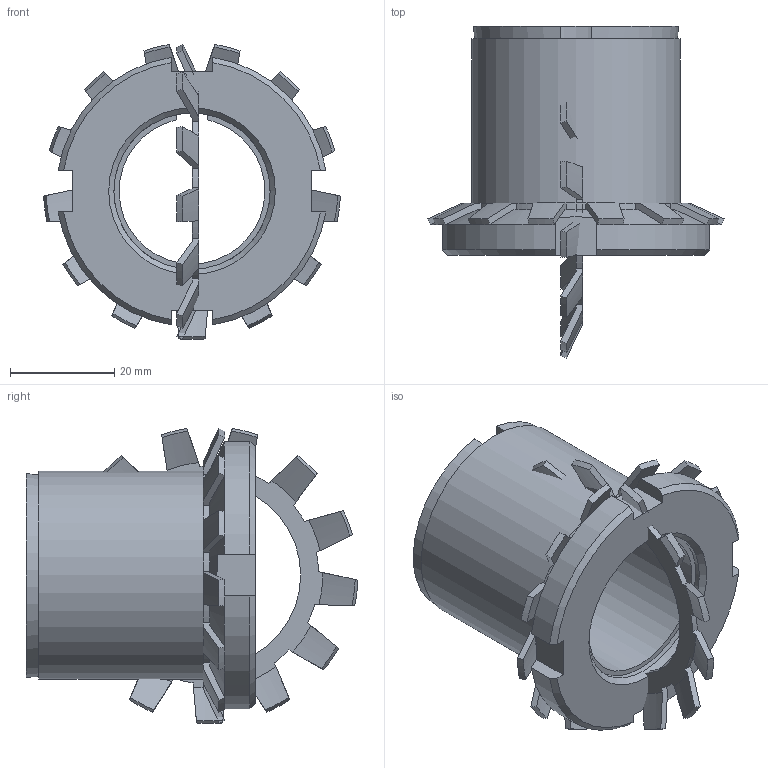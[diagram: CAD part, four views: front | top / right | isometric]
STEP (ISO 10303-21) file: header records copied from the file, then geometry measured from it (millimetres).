
FILE_DESCRIPTION( ( 'Unknown' ), '1' );
FILE_NAME( 'C:/Dokumente und Einstellungen/Sven/Desktop/homepage/cad - homepage/KBS55/KBS 55 - 28 x 40.stp', 'Unknown', ( 'Unknown' ), ( 'Unknown' ), 'XStep 1.0', 'Unknown', ' ' );
FILE_SCHEMA( ( 'automotive_design' ) );
Length unit declared in the file: millimetre
Products named in the file (3): Assem1; KBS 55 - 28 x 40; 08570079_locking_plate_din_5406_mb_7_2_14a
Bounding box: 56.97 x 63.73 x 56.65 mm (x, y, z)
Volume: 67548.4 mm3; surface area: 30273.3 mm2
Topology: 4 solids, 4 shells, 240 faces, 688 edges, 456 vertices
Faces by surface type: plane 104, cone 94, cylinder 42
Full cylindrical faces by diameter (mm): 30 x2, 40 x2
Entity records: 4292 total; most frequent: CARTESIAN_POINT 903, ORIENTED_EDGE 676, DIRECTION 640, EDGE_CURVE 338, AXIS2_PLACEMENT_3D 253, VERTEX_POINT 226, LINE 134, VECTOR 134
